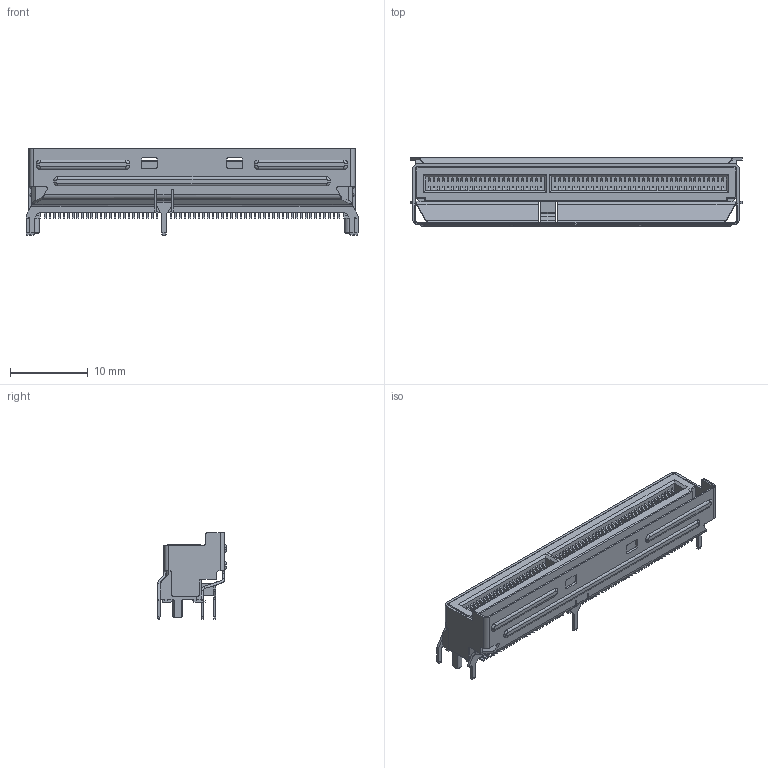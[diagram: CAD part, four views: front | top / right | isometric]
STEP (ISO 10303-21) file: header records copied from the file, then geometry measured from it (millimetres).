
FILE_DESCRIPTION((''),'2;1');
FILE_NAME('PMC124-3X0X-00X-XH_XX_CUSTOMER_','2026-07-20T13:57:35',('39002408'),(''),'CREO PARAMETRIC BY PTC INC, 2019471','CREO PARAMETRIC BY PTC INC, 2019471','');
FILE_SCHEMA(('AUTOMOTIVE_DESIGN { 1 0 10303 214 1 1 1 1 }'));
Products named in the file (1): PMC124-3X0X-00X-XH_XX_CUSTOMER_
Bounding box: 42.75 x 8.82 x 11.1 mm (x, y, z)
Volume: 1258.8 mm3; surface area: 3440.5 mm2
Topology: 1 solids, 1 shells, 2186 faces, 5893 edges, 3892 vertices
Faces by surface type: plane 1644, cylinder 516, bspline 20, cone 6
Entity records: 68775 total; most frequent: CARTESIAN_POINT 12696, ORIENTED_EDGE 11786, DIRECTION 11145, EDGE_CURVE 5893, VECTOR 4781, LINE 4781, VERTEX_POINT 3892, AXIS2_PLACEMENT_3D 3182
